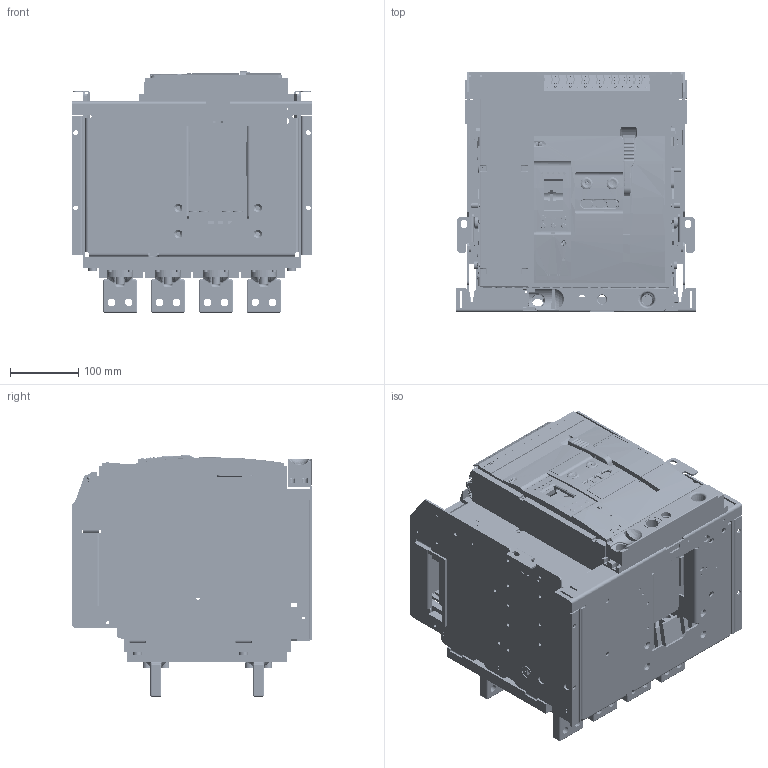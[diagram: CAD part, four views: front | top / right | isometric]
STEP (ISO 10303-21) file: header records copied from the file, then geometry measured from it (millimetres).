
FILE_DESCRIPTION(/* description */ (''),/* implementation_level */ '2;1');
FILE_NAME(/* name */ 'C:/Users/carlos.gonzalez/Documents/ADRIAN_TEMP_DRAWING/Ex9A16_DO_4P_PB_Drawing.step',/* time_stamp */ '2021-10-14T12:03:30+02:00',/* author */ (''),/* organization */ (''),/* preprocessor_version */ 'ST-DEVELOPER v18.1',/* originating_system */ 'Autodesk Translation Framework v10.10.0.1391',/* authorisation */ '');
FILE_SCHEMA (('AUTOMOTIVE_DESIGN { 1 0 10303 214 3 1 1 }'));
Products named in the file (159): Ex9A16_DO_4P; 6229A15260011-4_ASM_3_ASM (1); 5024A15260041_ASM_2_ASM (1); 8050A0306003_1 (1); 5300A1526002_ASM_3_ASM (1); 8300A0101002_2 (1); 5050A1526002_ASM_12_ASM (1); 5050A1516004_ASM_2_ASM (1); 8050A0305001_2 (1); 5261A1516002_ASM_13_ASM (1); 8261A0306002_2 (1); 5050A1526001_ASM_19_ASM (1); 5050A1516003_ASM_2_ASM (1); 8050A0305002_2 (1); 5261A1516001_ASM_4_ASM (1); 8261A0306001_2 (1); 5024A15260021_ASM_17_ASM (1); 5024A0203003_ASM_1_ASM (1); 5024A0203003V1_1 (1); 8940A0411003_2 (1); GBT809-M3X10-B_2 (1); 5300A15260011_ASM_1_ASM (1); 5300A0203001_ASM_1_ASM (1); 5300A0203001V1_1 (1); GBT809-M4X12-B_2 (1); 8754A0101002_2 (1); 8100A0101001_2 (1); GBT845-ST2_9X9_5C_2 (1); 8300A0203001_1 (1); 8196A0101001_2 (1); GBT97_1-5_2 (1); 8043A0306023_2 (1); 8043A0306022_2 (1); 5ZTD-558-466_ASM_2_ASM (1); 8ZTD-064-138_2 (1); 5ZTD-558-467_ASM_2_ASM (1); 5ZTD-558-467_ASM_2_ASM (1)_1; 5ZTD-558-467_ASM_2_ASM (1)_2; 5ZTD-558-467_ASM_2_ASM (1)_3; 5ZTD-558-467_ASM_2_ASM (1)_4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
Assembly tree (548 placements, depth 5):
  Ex9A16_DO_4P
    6229A15260011-4_ASM_3_ASM (1)
      5024A15260041_ASM_2_ASM (1)
        8050A0306003_1 (1)
        5300A1526002_ASM_3_ASM (1)
          8300A0101002_2 (1)
      5050A1526002_ASM_12_ASM (1)
        5050A1516004_ASM_2_ASM (1)
          8050A0305001_2 (1)
        5261A1516002_ASM_13_ASM (1)
          8261A0306002_2 (1)
      5050A1526001_ASM_19_ASM (1)
        5050A1516003_ASM_2_ASM (1)
          8050A0305002_2 (1)
        5261A1516001_ASM_4_ASM (1)
          8261A0306001_2 (1)
      5024A15260021_ASM_17_ASM (1)
        5024A0203003_ASM_1_ASM (1)
          5024A0203003V1_1 (1)
          8940A0411003_2 (1)  x32
          GBT809-M3X10-B_2 (1)  x12
      5300A15260011_ASM_1_ASM (1)
        5300A0203001_ASM_1_ASM (1)
          5300A0203001V1_1 (1)
          GBT809-M4X12-B_2 (1)  x10
        8754A0101002_2 (1)  x4
        8100A0101001_2 (1)  x4
        GBT845-ST2_9X9_5C_2 (1)  x12
        8300A0203001_1 (1)
        GBT848-4_2 (1)  x10
        GBT818-M4X10_2 (1)  x10
      8196A0101001_2 (1)
      GBT97_1-5_2 (1)  x4
      GBT70_1-M8X20_2 (1)  x20
      8043A0306023_2 (1)
      8043A0306022_2 (1)
      5ZTD-558-466_ASM_2_ASM (1)
        8ZTD-064-138_2 (1)
        5ZTD-558-467_ASM_2_ASM (1)
          8ZTD-024-689_2 (1)
          8ZTD-557-554_2 (1)
          8ZTD-557-552_2 (1)
          8ZTD-557-553_2 (1)
          8ZTD-557-555_2 (1)
          GBT6170-M3_2 (1)  x4
          GBT818-M3X8_2 (1)  x4
        5ZTD-558-467_ASM_2_ASM (1)_1
          8ZTD-024-689_2 (1)
          8ZTD-557-554_2 (1)
          8ZTD-557-552_2 (1)
          8ZTD-557-553_2 (1)
          8ZTD-557-555_2 (1)
          GBT6170-M3_2 (1)  x4
          GBT818-M3X8_2 (1)  x4
        5ZTD-558-467_ASM_2_ASM (1)_2
          8ZTD-024-689_2 (1)
          8ZTD-557-554_2 (1)
          8ZTD-557-552_2 (1)
          8ZTD-557-553_2 (1)
          8ZTD-557-555_2 (1)
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Bounding box: 352 x 351.63 x 352.68 mm (x, y, z)
Volume: 7824864.9 mm3; surface area: 3514147 mm2
Topology: 476 solids, 739 shells, 20501 faces, 52847 edges, 34264 vertices
Faces by surface type: plane 13478, cylinder 4485, cone 1326, bspline 721, torus 301, sphere 190
Full cylindrical faces by diameter (mm): 1 x2, 1.8 x140, 1.9 x14, 2 x25, 2.1 x17, 2.2 x1, 2.246 x56, 2.459 x68, 2.5 x8, 3 x278, 3.1 x7, 3.2 x1, 3.242 x29, 3.4 x24, 3.5 x21, 4 x235, 4.1 x6, 4.134 x2, 4.2 x22, 4.3 x17, 4.5 x21, 4.9 x1, 5 x193, 5.1 x6, 5.3 x2, 5.5 x18, 5.58 x1, 5.6 x12, 5.68 x1, 5.8 x5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
Entity records: 278587 total; most frequent: CARTESIAN_POINT 67165, ORIENTED_EDGE 41705, DIRECTION 41364, EDGE_CURVE 20963, LINE 15414, VECTOR 15414, VERTEX_POINT 13769, AXIS2_PLACEMENT_3D 12975
